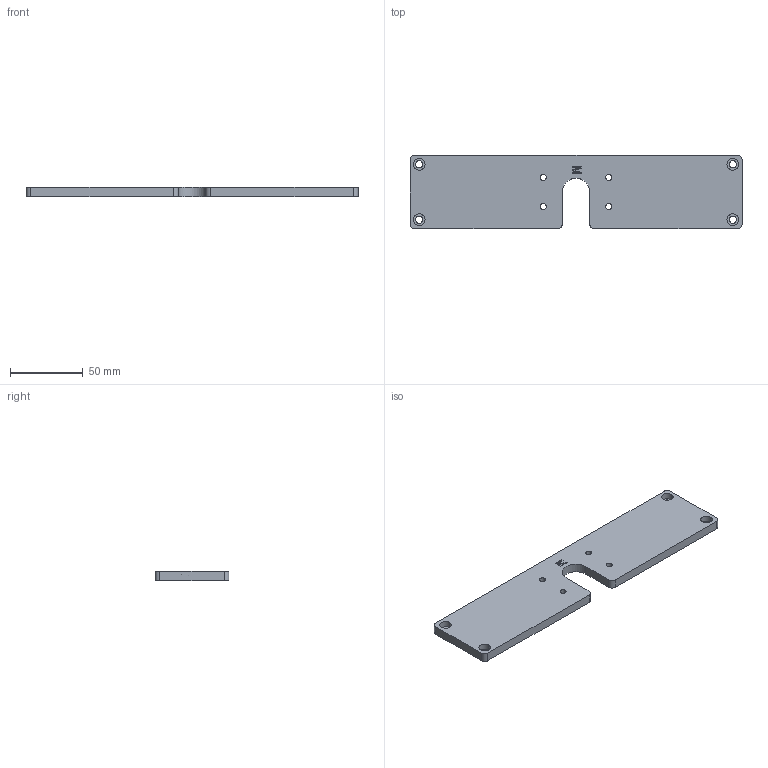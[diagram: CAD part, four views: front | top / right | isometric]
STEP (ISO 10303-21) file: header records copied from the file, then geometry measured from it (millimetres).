
FILE_DESCRIPTION (( 'STEP AP203' ), '1' );
FILE_NAME ('SLM-611-S.STEP', '2018-11-13T20:40:00', ( '' ), ( '' ), 'SwSTEP 2.0', 'SolidWorks 2018', '' );
FILE_SCHEMA (( 'CONFIG_CONTROL_DESIGN' ));
Length unit declared in the file: inch
Products named in the file (2): SLM-611-S
Bounding box: 228.6 x 50.8 x 6.35 mm (x, y, z)
Volume: 68297.1 mm3; surface area: 26480.9 mm2
Topology: 1 solids, 1 shells, 60 faces, 159 edges, 106 vertices
Faces by surface type: cylinder 31, plane 28, bspline 1
Entity records: 2108 total; most frequent: CARTESIAN_POINT 368, DIRECTION 341, ORIENTED_EDGE 318, EDGE_CURVE 159, AXIS2_PLACEMENT_3D 123, VERTEX_POINT 106, VECTOR 95, LINE 95
